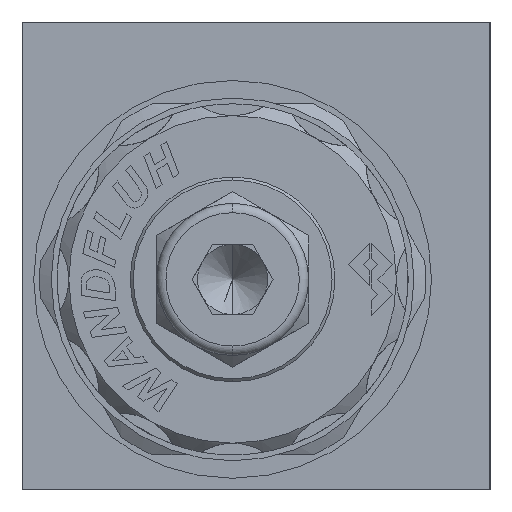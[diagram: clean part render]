
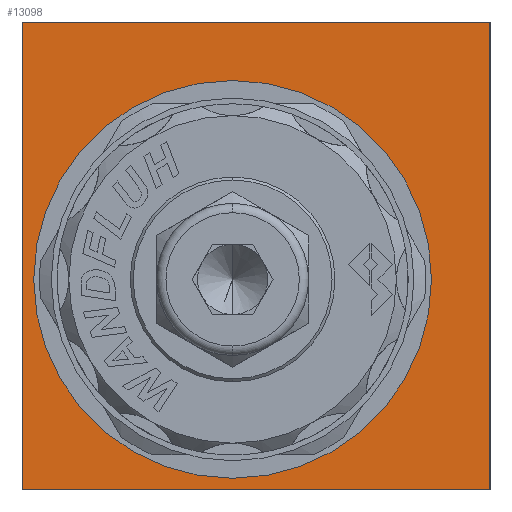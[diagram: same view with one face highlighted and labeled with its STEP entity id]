
A CAD part, left-side view. The second image highlights one B-rep face of the part: STEP entity #13098.
In plain terms, the highlighted planar face has unit normal (-1, 0, 0).
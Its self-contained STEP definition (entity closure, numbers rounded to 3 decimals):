
#42 = EDGE_CURVE ( 'NONE', #10711, #2474, #9710, .T. ) ;
#94 = CARTESIAN_POINT ( 'NONE',  ( 0., 20., 20. ) ) ;
#864 = CARTESIAN_POINT ( 'NONE',  ( 0., -20., -20. ) ) ;
#2226 = DIRECTION ( 'NONE',  ( 0., -1., 0. ) ) ;
#2474 = VERTEX_POINT ( 'NONE', #24591 ) ;
#3055 = AXIS2_PLACEMENT_3D ( 'NONE', #22594, #11173, #24504 ) ;
#3296 = CARTESIAN_POINT ( 'NONE',  ( 0., 2., -2. ) ) ;
#3587 = LINE ( 'NONE', #864, #13626 ) ;
#4851 = VECTOR ( 'NONE', #13224, 1000. ) ;
#5069 = AXIS2_PLACEMENT_3D ( 'NONE', #3296, #16541, #5172 ) ;
#5172 = DIRECTION ( 'NONE',  ( 0., 0., 1. ) ) ;
#5876 = EDGE_CURVE ( 'NONE', #23085, #10711, #19378, .T. ) ;
#5901 = VERTEX_POINT ( 'NONE', #13759 ) ;
#7606 = CARTESIAN_POINT ( 'NONE',  ( 0., -20., 20. ) ) ;
#8440 = CIRCLE ( 'NONE', #11801, 17. ) ;
#8664 = CARTESIAN_POINT ( 'NONE',  ( 0., -20., 20. ) ) ;
#8679 = EDGE_CURVE ( 'NONE', #9492, #23085, #14971, .T. ) ;
#8861 = FACE_BOUND ( 'NONE', #10684, .T. ) ;
#9437 = FACE_OUTER_BOUND ( 'NONE', #13564, .T. ) ;
#9478 = EDGE_CURVE ( 'NONE', #2474, #9492, #3587, .T. ) ;
#9492 = VERTEX_POINT ( 'NONE', #16027 ) ;
#9576 = CARTESIAN_POINT ( 'NONE',  ( 0., 2., -2. ) ) ;
#9710 = LINE ( 'NONE', #7606, #9911 ) ;
#9911 = VECTOR ( 'NONE', #20828, 1000. ) ;
#10684 = EDGE_LOOP ( 'NONE', ( #19279, #19322 ) ) ;
#10711 = VERTEX_POINT ( 'NONE', #8664 ) ;
#11085 = PLANE ( 'NONE',  #3055 ) ;
#11173 = DIRECTION ( 'NONE',  ( -1., 0., 0. ) ) ;
#11393 = DIRECTION ( 'NONE',  ( 0., 0., 1. ) ) ;
#11569 = VERTEX_POINT ( 'NONE', #22602 ) ;
#11801 = AXIS2_PLACEMENT_3D ( 'NONE', #9576, #22827, #11393 ) ;
#13098 = ADVANCED_FACE ( 'NONE', ( #8861, #9437 ), #11085, .T. ) ;
#13224 = DIRECTION ( 'NONE',  ( 0., 0., 1. ) ) ;
#13564 = EDGE_LOOP ( 'NONE', ( #19512, #19659, #19876, #19967 ) ) ;
#13626 = VECTOR ( 'NONE', #15948, 1000. ) ;
#13703 = CIRCLE ( 'NONE', #5069, 17. ) ;
#13759 = CARTESIAN_POINT ( 'NONE',  ( 0., 2., 15. ) ) ;
#14971 = LINE ( 'NONE', #94, #4851 ) ;
#15474 = CARTESIAN_POINT ( 'NONE',  ( 0., -20., 20. ) ) ;
#15948 = DIRECTION ( 'NONE',  ( 0., 1., 0. ) ) ;
#15996 = EDGE_CURVE ( 'NONE', #11569, #5901, #8440, .T. ) ;
#16027 = CARTESIAN_POINT ( 'NONE',  ( 0., 20., -20. ) ) ;
#16541 = DIRECTION ( 'NONE',  ( -1., 0., 0. ) ) ;
#18802 = VECTOR ( 'NONE', #2226, 1000. ) ;
#19279 = ORIENTED_EDGE ( 'NONE', *, *, #21845, .F. ) ;
#19322 = ORIENTED_EDGE ( 'NONE', *, *, #15996, .F. ) ;
#19378 = LINE ( 'NONE', #15474, #18802 ) ;
#19512 = ORIENTED_EDGE ( 'NONE', *, *, #9478, .F. ) ;
#19659 = ORIENTED_EDGE ( 'NONE', *, *, #42, .F. ) ;
#19876 = ORIENTED_EDGE ( 'NONE', *, *, #5876, .F. ) ;
#19967 = ORIENTED_EDGE ( 'NONE', *, *, #8679, .F. ) ;
#20383 = CARTESIAN_POINT ( 'NONE',  ( 0., 20., 20. ) ) ;
#20828 = DIRECTION ( 'NONE',  ( 0., 0., -1. ) ) ;
#21845 = EDGE_CURVE ( 'NONE', #5901, #11569, #13703, .T. ) ;
#22594 = CARTESIAN_POINT ( 'NONE',  ( 0., 20., -20. ) ) ;
#22602 = CARTESIAN_POINT ( 'NONE',  ( 0., 2., -19. ) ) ;
#22827 = DIRECTION ( 'NONE',  ( -1., 0., 0. ) ) ;
#23085 = VERTEX_POINT ( 'NONE', #20383 ) ;
#24504 = DIRECTION ( 'NONE',  ( 0., 0., 1. ) ) ;
#24591 = CARTESIAN_POINT ( 'NONE',  ( 0., -20., -20. ) ) ;
